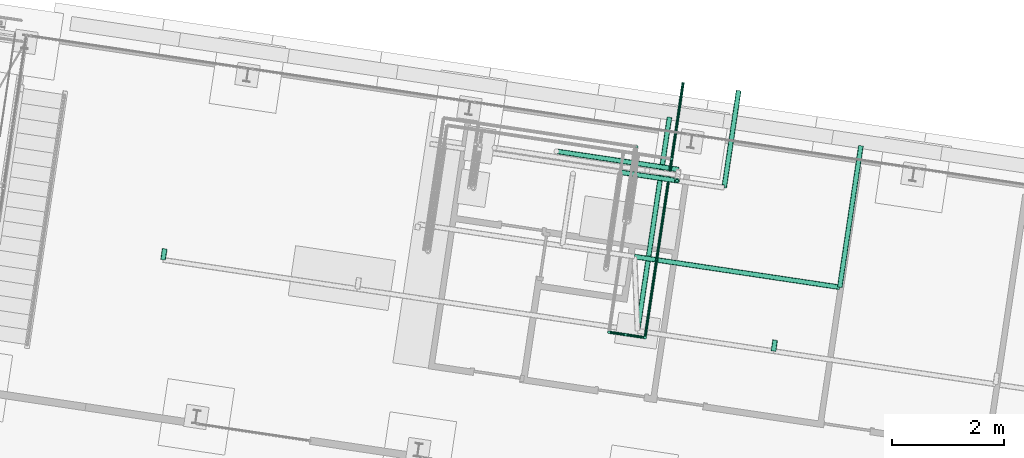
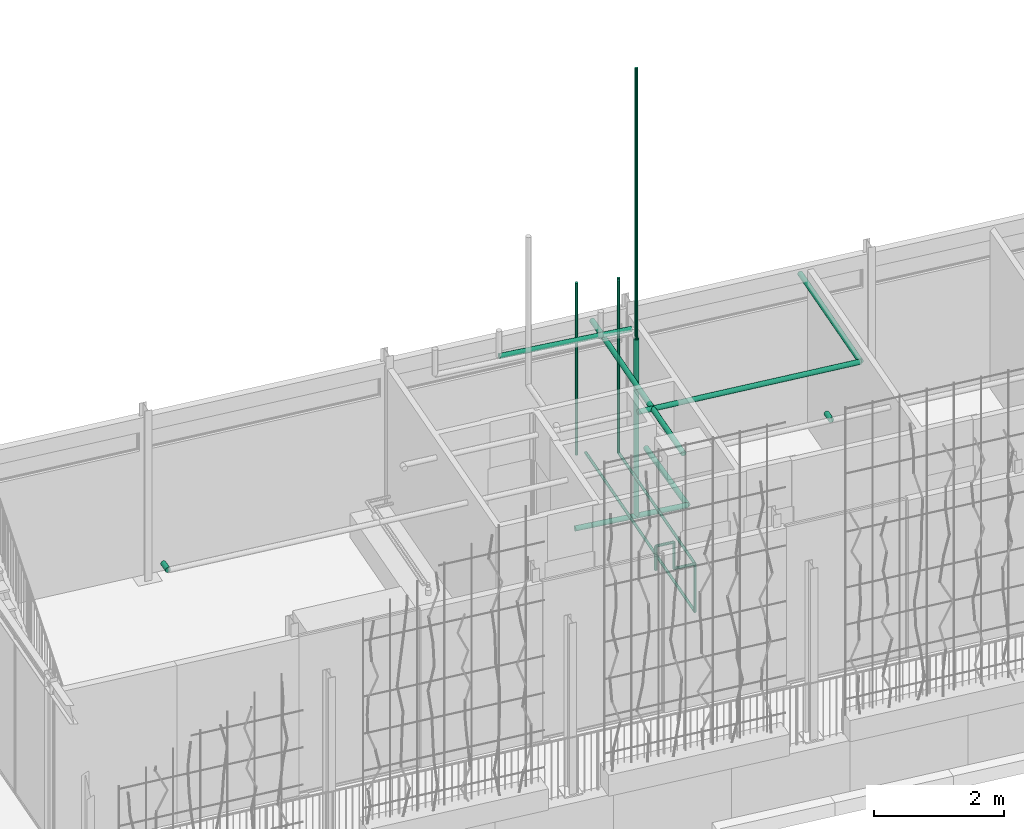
# One storey, part 137 of 142: 16 pipe segments, 5 duct segments.
"""IFC4 building model written with IfcOpenShell, lengths in metres."""

from ifc_helpers import new_model, si_unit, direction, frame, origin_with_axes, place, context, subcontext, project, spatial, circle, extrude, material, material_profile, profile_set, profile_usage, type_object, element, save


model = new_model("IFC4")

# Units and contexts
model_context = context("Model", 3, precision=1e-05, world=origin_with_axes(), true_north=direction((0.0, 1.0)))
body_context = subcontext(model_context, "Body", "Model", "MODEL_VIEW")
ifc_project = project(units=[si_unit("VOLUMEUNIT", "CUBIC_METRE"), si_unit("LENGTHUNIT", "METRE"), si_unit("AREAUNIT", "SQUARE_METRE")], contexts=[model_context])

# Site, building, storey
site_placement = place(None, origin_with_axes())
site = spatial("IfcSite", under=ifc_project, at=site_placement, Name="Lares · Rua das Mercês · artigo 4771")
building_placement = place(site_placement, frame((12.0, 10.2, 13.9), z_axis=(0.0, 0.0, 1.0), x_axis=(0.989015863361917, -0.147809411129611, 0.0)))
building = spatial("IfcBuilding", under=site, at=building_placement, Name="Casa Sobreposta")
storey_placement = place(building_placement, origin_with_axes())
storey = spatial("IfcBuildingStorey", under=building, at=storey_placement, Name="00 · Habitação e estacionamento", Elevation=13.9)

# Pipe segments
ifc_material_1 = material(Name="cold · traçado de estudo", Category="schematic services")
ifc_material_profile_1 = material_profile(ifc_material_1, circle(Radius=0.025))
ifc_profile_set_1 = profile_set([ifc_material_profile_1], Name="D0.05")
ifc_profile_usage_1 = profile_usage(ifc_profile_set_1)
pipe_segment_type_1 = type_object("IfcPipeSegmentType", Name="D0.05 / cold", PredefinedType="NOTDEFINED", material=ifc_profile_set_1)
pipe_segment_1_placement = place(storey_placement, frame((11.7, 7.3, -0.3), z_axis=(0.0, -1.0, 0.0), x_axis=(-1.0, 0.0, 0.0)))
element("IfcPipeSegment", 1, at=pipe_segment_1_placement, inside=storey, type_object=pipe_segment_type_1, material=ifc_profile_usage_1, Name="Entrada AF → colector", context=body_context, shape_type="SweptSolid", body=[
    extrude(circle(Radius=0.025), origin_with_axes(), (0.0, 0.0, 1.0), 4.6),
])
ifc_profile_usage_2 = profile_usage(ifc_profile_set_1)
pipe_segment_2_placement = place(storey_placement, frame((11.7, 2.7, -0.3), z_axis=(0.0, 0.0, 1.0), x_axis=(1.0, 0.0, 0.0)))
element("IfcPipeSegment", 2, at=pipe_segment_2_placement, inside=storey, type_object=pipe_segment_type_1, material=ifc_profile_usage_2, Name="Entrada AF → colector", context=body_context, shape_type="SweptSolid", body=[
    extrude(circle(Radius=0.025), origin_with_axes(), (0.0, 0.0, 1.0), 0.9),
])
ifc_profile_usage_3 = profile_usage(ifc_profile_set_1)
pipe_segment_3_placement = place(storey_placement, frame((11.7, 2.7, 0.6), z_axis=(-1.0, 0.0, 0.0), x_axis=(0.0, 1.0, 0.0)))
element("IfcPipeSegment", 3, at=pipe_segment_3_placement, inside=storey, type_object=pipe_segment_type_1, material=ifc_profile_usage_3, Name="Colector AF → produção AQS", context=body_context, shape_type="SweptSolid", body=[
    extrude(circle(Radius=0.025), origin_with_axes(), (0.0, 0.0, 1.0), 0.35),
])
ifc_profile_usage_4 = profile_usage(ifc_profile_set_1)
pipe_segment_4_placement = place(storey_placement, frame((11.35, 2.7, 0.6), z_axis=(0.0, 0.0, 1.0), x_axis=(1.0, 0.0, 0.0)))
element("IfcPipeSegment", 4, at=pipe_segment_4_placement, inside=storey, type_object=pipe_segment_type_1, material=ifc_profile_usage_4, Name="Colector AF → produção AQS", context=body_context, shape_type="SweptSolid", body=[
    extrude(circle(Radius=0.025), origin_with_axes(), (0.0, 0.0, 1.0), 0.5),
])
ifc_profile_usage_5 = profile_usage(ifc_profile_set_1)
pipe_segment_5_placement = place(storey_placement, frame((11.7, 2.7, 0.6), z_axis=(0.0, 1.0, 0.0), x_axis=(1.0, 0.0, 0.0)))
element("IfcPipeSegment", 5, at=pipe_segment_5_placement, inside=storey, type_object=pipe_segment_type_1, material=ifc_profile_usage_5, Name="AF · Lava-loiça", context=body_context, shape_type="SweptSolid", body=[
    extrude(circle(Radius=0.025), origin_with_axes(), (0.0, 0.0, 1.0), 3.22),
])
ifc_profile_usage_6 = profile_usage(ifc_profile_set_1)
pipe_segment_6_placement = place(storey_placement, frame((11.7, 5.92, 0.6), z_axis=(0.0, 0.0, 1.0), x_axis=(1.0, 0.0, 0.0)))
element("IfcPipeSegment", 6, at=pipe_segment_6_placement, inside=storey, type_object=pipe_segment_type_1, material=ifc_profile_usage_6, Name="AF · ponto de rega superior", context=body_context, shape_type="SweptSolid", body=[
    extrude(circle(Radius=0.025), origin_with_axes(), (0.0, 0.0, 1.0), 3.29),
])
ifc_profile_usage_7 = profile_usage(ifc_profile_set_1)
pipe_segment_7_placement = place(storey_placement, frame((11.7, 5.92, 0.6), z_axis=(0.0, 0.0, 1.0), x_axis=(1.0, 0.0, 0.0)))
element("IfcPipeSegment", 7, at=pipe_segment_7_placement, inside=storey, type_object=pipe_segment_type_1, material=ifc_profile_usage_7, Name="AF · banho superior · Lavatório", context=body_context, shape_type="SweptSolid", body=[
    extrude(circle(Radius=0.025), origin_with_axes(), (0.0, 0.0, 1.0), 3.24),
])
ifc_material_2 = material(Name="hot · traçado de estudo", Category="schematic services")
ifc_material_profile_2 = material_profile(ifc_material_2, circle(Radius=0.025))
ifc_profile_set_2 = profile_set([ifc_material_profile_2], Name="D0.05")
ifc_profile_usage_8 = profile_usage(ifc_profile_set_2)
pipe_segment_type_2 = type_object("IfcPipeSegmentType", Name="D0.05 / hot", PredefinedType="NOTDEFINED", material=ifc_profile_set_2)
pipe_segment_8_placement = place(storey_placement, frame((11.35, 2.7, 1.1), z_axis=(-1.0, 0.0, 0.0), x_axis=(0.0, 1.0, 0.0)))
element("IfcPipeSegment", 8, at=pipe_segment_8_placement, inside=storey, type_object=pipe_segment_type_2, material=ifc_profile_usage_8, Name="Produção AQS → colector", context=body_context, shape_type="SweptSolid", body=[
    extrude(circle(Radius=0.025), origin_with_axes(), (0.0, 0.0, 1.0), 0.299999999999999),
])
ifc_profile_usage_9 = profile_usage(ifc_profile_set_2)
pipe_segment_9_placement = place(storey_placement, frame((11.05, 2.7, 1.1), z_axis=(0.0, 0.0, -1.0), x_axis=(1.0, 0.0, 0.0)))
element("IfcPipeSegment", 9, at=pipe_segment_9_placement, inside=storey, type_object=pipe_segment_type_2, material=ifc_profile_usage_9, Name="Produção AQS → colector", context=body_context, shape_type="SweptSolid", body=[
    extrude(circle(Radius=0.025), origin_with_axes(), (0.0, 0.0, 1.0), 0.45),
])
ifc_profile_usage_10 = profile_usage(ifc_profile_set_2)
pipe_segment_10_placement = place(storey_placement, frame((11.05, 6.04, 0.65), z_axis=(0.0, 0.0, 1.0), x_axis=(1.0, 0.0, 0.0)))
element("IfcPipeSegment", 10, at=pipe_segment_10_placement, inside=storey, type_object=pipe_segment_type_2, material=ifc_profile_usage_10, Name="AQ · banho superior · Lavatório", context=body_context, shape_type="SweptSolid", body=[
    extrude(circle(Radius=0.025), origin_with_axes(), (0.0, 0.0, 1.0), 3.24),
])
ifc_material_3 = material(Name="waste · traçado de estudo", Category="schematic services")
ifc_material_profile_3 = material_profile(ifc_material_3, circle(Radius=0.045))
ifc_profile_set_3 = profile_set([ifc_material_profile_3], Name="D0.09")
ifc_profile_usage_11 = profile_usage(ifc_profile_set_3)
pipe_segment_type_3 = type_object("IfcPipeSegmentType", Name="D0.09 / waste", PredefinedType="NOTDEFINED", material=ifc_profile_set_3)
pipe_segment_11_placement = place(storey_placement, frame((11.1, 5.55, -0.374), z_axis=(0.999800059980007, 0.0, -0.0199960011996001), x_axis=(0.0, -1.0, 0.0)))
element("IfcPipeSegment", 11, at=pipe_segment_11_placement, inside=storey, type_object=pipe_segment_type_3, material=ifc_profile_usage_11, Name="Esgoto · Banheira", context=body_context, shape_type="SweptSolid", body=[
    extrude(circle(Radius=0.045), origin_with_axes(), (0.0, 0.0, 1.0), 1.6003199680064),
])
ifc_profile_usage_12 = profile_usage(ifc_profile_set_3)
pipe_segment_12_placement = place(storey_placement, frame((10.83, 5.55, -0.3686), z_axis=(0.999800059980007, 0.0, -0.0199960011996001), x_axis=(0.0, -1.0, 0.0)))
element("IfcPipeSegment", 12, at=pipe_segment_12_placement, inside=storey, type_object=pipe_segment_type_3, material=ifc_profile_usage_12, Name="Esgoto · Sanita", context=body_context, shape_type="SweptSolid", body=[
    extrude(circle(Radius=0.045), origin_with_axes(), (0.0, 0.0, 1.0), 1.87037396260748),
])
ifc_profile_usage_13 = profile_usage(ifc_profile_set_3)
pipe_segment_13_placement = place(storey_placement, frame((12.7, 5.55, -0.406), z_axis=(0.0, 0.999331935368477, -0.0365469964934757), x_axis=(1.0, 0.0, 0.0)))
element("IfcPipeSegment", 13, at=pipe_segment_13_placement, inside=storey, type_object=pipe_segment_type_3, material=ifc_profile_usage_13, Name="Colector → caixa exterior", context=body_context, shape_type="SweptSolid", body=[
    extrude(circle(Radius=0.045), origin_with_axes(), (0.0, 0.0, 1.0), 1.75116989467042),
])
ifc_profile_usage_14 = profile_usage(ifc_profile_set_3)
pipe_segment_14_placement = place(storey_placement, frame((11.85, 5.55, 2.95), z_axis=(0.0, 0.0, -1.0), x_axis=(1.0, 0.0, 0.0)))
element("IfcPipeSegment", 14, at=pipe_segment_14_placement, inside=storey, type_object=pipe_segment_type_3, material=ifc_profile_usage_14, Name="Esgoto · banho superior · Lavatório", context=body_context, shape_type="SweptSolid", body=[
    extrude(circle(Radius=0.045), origin_with_axes(), (0.0, 0.0, 1.0), 3.339),
])
ifc_profile_usage_15 = profile_usage(ifc_profile_set_3)
pipe_segment_15_placement = place(storey_placement, frame((9.65, 5.75, 3.05), z_axis=(0.999741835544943, 0.0, -0.0227214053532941), x_axis=(0.0, -1.0, 0.0)))
element("IfcPipeSegment", 15, at=pipe_segment_15_placement, inside=storey, type_object=pipe_segment_type_3, material=ifc_profile_usage_15, Name="Esgoto · banho superior · Sanita", context=body_context, shape_type="SweptSolid", body=[
    extrude(circle(Radius=0.045), origin_with_axes(), (0.0, 0.0, 1.0), 2.20056810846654),
])
ifc_material_4 = material(Name="vent · traçado de estudo", Category="schematic services")
ifc_material_profile_4 = material_profile(ifc_material_4, circle(Radius=0.025))
ifc_profile_set_4 = profile_set([ifc_material_profile_4], Name="D0.05")
ifc_profile_usage_16 = profile_usage(ifc_profile_set_4)
pipe_segment_type_4 = type_object("IfcPipeSegmentType", Name="D0.05 / vent", PredefinedType="NOTDEFINED", material=ifc_profile_set_4)
pipe_segment_16_placement = place(storey_placement, frame((11.85, 5.55, -0.389), z_axis=(0.0, 0.0, 1.0), x_axis=(1.0, 0.0, 0.0)))
element("IfcPipeSegment", 16, at=pipe_segment_16_placement, inside=storey, type_object=pipe_segment_type_4, material=ifc_profile_usage_16, Name="Ventilação do esgoto", context=body_context, shape_type="SweptSolid", body=[
    extrude(circle(Radius=0.025), origin_with_axes(), (0.0, 0.0, 1.0), 8.439),
])

# Duct segments
ifc_material_5 = material(Name="supply · traçado de estudo", Category="schematic services")
ifc_material_profile_5 = material_profile(ifc_material_5, circle(Radius=0.045))
ifc_profile_set_5 = profile_set([ifc_material_profile_5], Name="D0.09")
ifc_profile_usage_17 = profile_usage(ifc_profile_set_5)
duct_segment_type_1 = type_object("IfcDuctSegmentType", Name="D0.09 / supply", PredefinedType="NOTDEFINED", material=ifc_profile_set_5)
duct_segment_1_placement = place(storey_placement, frame((3.0, 2.8, 2.65), z_axis=(0.0, 1.0, 0.0), x_axis=(1.0, 0.0, 0.0)))
element("IfcDuctSegment", 17, at=duct_segment_1_placement, inside=storey, type_object=duct_segment_type_1, material=ifc_profile_usage_17, Name="VMC · insuflação", context=body_context, shape_type="SweptSolid", body=[
    extrude(circle(Radius=0.045), origin_with_axes(), (0.0, 0.0, 1.0), 0.2),
])
ifc_profile_usage_18 = profile_usage(ifc_profile_set_5)
duct_segment_2_placement = place(storey_placement, frame((14.0, 2.8, 2.65), z_axis=(0.0, 1.0, 0.0), x_axis=(1.0, 0.0, 0.0)))
element("IfcDuctSegment", 18, at=duct_segment_2_placement, inside=storey, type_object=duct_segment_type_1, material=ifc_profile_usage_18, Name="VMC · insuflação", context=body_context, shape_type="SweptSolid", body=[
    extrude(circle(Radius=0.045), origin_with_axes(), (0.0, 0.0, 1.0), 0.2),
])
ifc_profile_usage_19 = profile_usage(ifc_profile_set_5)
duct_segment_3_placement = place(storey_placement, frame((11.55, 2.8, 2.65), z_axis=(0.0, 1.0, 0.0), x_axis=(1.0, 0.0, 0.0)))
element("IfcDuctSegment", 19, at=duct_segment_3_placement, inside=storey, type_object=duct_segment_type_1, material=ifc_profile_usage_19, Name="VMC · insuflação", context=body_context, shape_type="SweptSolid", body=[
    extrude(circle(Radius=0.045), origin_with_axes(), (0.0, 0.0, 1.0), 3.85),
])
ifc_material_6 = material(Name="extract · traçado de estudo", Category="schematic services")
ifc_material_profile_6 = material_profile(ifc_material_6, circle(Radius=0.045))
ifc_profile_set_6 = profile_set([ifc_material_profile_6], Name="D0.09")
ifc_profile_usage_20 = profile_usage(ifc_profile_set_6)
duct_segment_type_2 = type_object("IfcDuctSegmentType", Name="D0.09 / extract", PredefinedType="NOTDEFINED", material=ifc_profile_set_6)
duct_segment_4_placement = place(storey_placement, frame((11.3, 4.1, 2.65), z_axis=(1.0, 0.0, 0.0), x_axis=(0.0, -1.0, 0.0)))
element("IfcDuctSegment", 20, at=duct_segment_4_placement, inside=storey, type_object=duct_segment_type_2, material=ifc_profile_usage_20, Name="VMC · extração", context=body_context, shape_type="SweptSolid", body=[
    extrude(circle(Radius=0.045), origin_with_axes(), (0.0, 0.0, 1.0), 3.7),
])
ifc_profile_usage_21 = profile_usage(ifc_profile_set_6)
duct_segment_5_placement = place(storey_placement, frame((15.0, 4.1, 2.65), z_axis=(0.0, 1.0, 0.0), x_axis=(1.0, 0.0, 0.0)))
element("IfcDuctSegment", 21, at=duct_segment_5_placement, inside=storey, type_object=duct_segment_type_2, material=ifc_profile_usage_21, Name="VMC · extração", context=body_context, shape_type="SweptSolid", body=[
    extrude(circle(Radius=0.045), origin_with_axes(), (0.0, 0.0, 1.0), 2.55),
])

save(model, "model.ifc")
